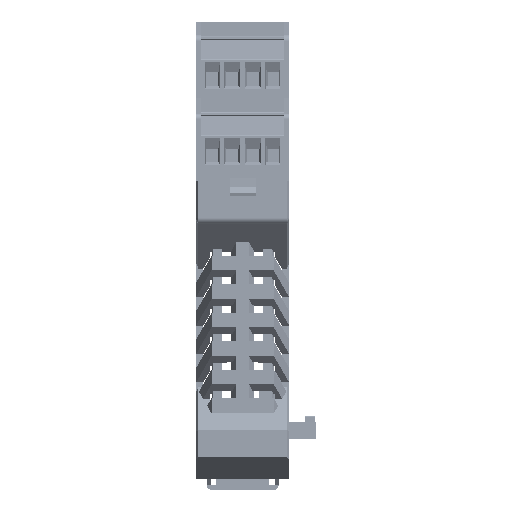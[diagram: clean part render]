
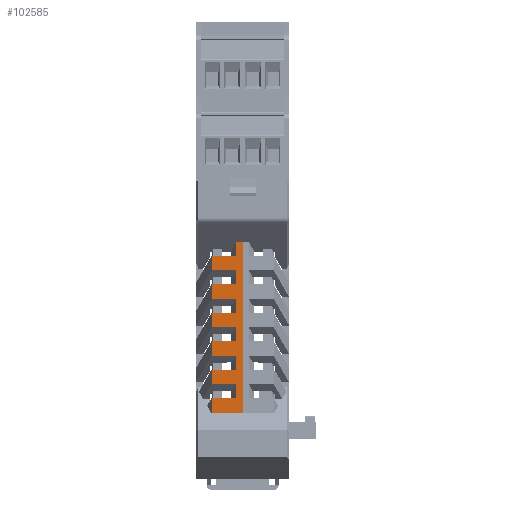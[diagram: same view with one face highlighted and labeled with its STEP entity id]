
A CAD part, front view. The second image highlights one B-rep face of the part: STEP entity #102585.
In plain terms, the highlighted planar face has unit normal (0, -1, 0) as drawn and (1, 0, 0) by its records, which use the part's own axes.
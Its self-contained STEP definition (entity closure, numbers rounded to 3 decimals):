
#102585=ADVANCED_FACE('',(#216925),#216927,.T.);
#216925=FACE_BOUND('',#216926,.T.);
#216926=EDGE_LOOP('',(#309129,#309130,#309131,#309132,#309133,#309134,#309135,#309136,
#309137,#309138,#309139,#309140,#309141,#309142,#309143,#309144,#309145,#309146,
#309147,#309148,#309149,#309150,#309151,#309152,#309153,#309154));
#216927=PLANE('',#216928);
#216928=AXIS2_PLACEMENT_3D('',#216929,#216930,#216931);
#216929=CARTESIAN_POINT('',(42.55,76.5,0.));
#216930=DIRECTION('',(1.,0.,0.));
#216931=DIRECTION('',(0.,0.,-1.));
#309129=ORIENTED_EDGE('',*,*,#363447,.F.);
#309130=ORIENTED_EDGE('',*,*,#363386,.F.);
#309131=ORIENTED_EDGE('',*,*,#363448,.F.);
#309132=ORIENTED_EDGE('',*,*,#363449,.T.);
#309133=ORIENTED_EDGE('',*,*,#362950,.T.);
#309134=ORIENTED_EDGE('',*,*,#363450,.F.);
#309135=ORIENTED_EDGE('',*,*,#363316,.F.);
#309136=ORIENTED_EDGE('',*,*,#363381,.F.);
#309137=ORIENTED_EDGE('',*,*,#363111,.F.);
#309138=ORIENTED_EDGE('',*,*,#363427,.T.);
#309139=ORIENTED_EDGE('',*,*,#363405,.F.);
#309140=ORIENTED_EDGE('',*,*,#363378,.F.);
#309141=ORIENTED_EDGE('',*,*,#363433,.F.);
#309142=ORIENTED_EDGE('',*,*,#363451,.T.);
#309143=ORIENTED_EDGE('',*,*,#363434,.T.);
#309144=ORIENTED_EDGE('',*,*,#363392,.F.);
#309145=ORIENTED_EDGE('',*,*,#363446,.T.);
#309146=ORIENTED_EDGE('',*,*,#363452,.T.);
#309147=ORIENTED_EDGE('',*,*,#363453,.T.);
#309148=ORIENTED_EDGE('',*,*,#363389,.F.);
#309149=ORIENTED_EDGE('',*,*,#363368,.T.);
#309150=ORIENTED_EDGE('',*,*,#363454,.F.);
#309151=ORIENTED_EDGE('',*,*,#363348,.T.);
#309152=ORIENTED_EDGE('',*,*,#363388,.F.);
#309153=ORIENTED_EDGE('',*,*,#363361,.T.);
#309154=ORIENTED_EDGE('',*,*,#363455,.T.);
#362950=EDGE_CURVE('',#427002,#427000,#427003,.T.);
#363111=EDGE_CURVE('',#427276,#427278,#427279,.T.);
#363316=EDGE_CURVE('',#427623,#427625,#427626,.T.);
#363348=EDGE_CURVE('',#427667,#427673,#427675,.T.);
#363361=EDGE_CURVE('',#427695,#427693,#427696,.T.);
#363368=EDGE_CURVE('',#427699,#427703,#427705,.T.);
#363378=EDGE_CURVE('',#427720,#427722,#427723,.T.);
#363381=EDGE_CURVE('',#427278,#427623,#427727,.T.);
#363386=EDGE_CURVE('',#427734,#427736,#427737,.T.);
#363388=EDGE_CURVE('',#427695,#427673,#427739,.T.);
#363389=EDGE_CURVE('',#427699,#427740,#427741,.T.);
#363392=EDGE_CURVE('',#427743,#427745,#427746,.T.);
#363405=EDGE_CURVE('',#427722,#427765,#427766,.T.);
#363427=EDGE_CURVE('',#427276,#427765,#427801,.T.);
#363433=EDGE_CURVE('',#427808,#427720,#427810,.T.);
#363434=EDGE_CURVE('',#427811,#427745,#427812,.T.);
#363446=EDGE_CURVE('',#427743,#427826,#427828,.T.);
#363447=EDGE_CURVE('',#427736,#427829,#427830,.T.);
#363448=EDGE_CURVE('',#427831,#427734,#427832,.T.);
#363449=EDGE_CURVE('',#427831,#427002,#427833,.T.);
#363450=EDGE_CURVE('',#427625,#427000,#427834,.T.);
#363451=EDGE_CURVE('',#427808,#427811,#427835,.T.);
#363452=EDGE_CURVE('',#427826,#427836,#427837,.T.);
#363453=EDGE_CURVE('',#427836,#427740,#427838,.T.);
#363454=EDGE_CURVE('',#427667,#427703,#427839,.T.);
#363455=EDGE_CURVE('',#427693,#427829,#427840,.T.);
#427000=VERTEX_POINT('',#574762);
#427002=VERTEX_POINT('',#574766);
#427003=LINE('',#574767,#574768);
#427276=VERTEX_POINT('',#575369);
#427278=VERTEX_POINT('',#575373);
#427279=LINE('',#575374,#575375);
#427623=VERTEX_POINT('',#576144);
#427625=VERTEX_POINT('',#576148);
#427626=LINE('',#576149,#576150);
#427667=VERTEX_POINT('',#576244);
#427673=VERTEX_POINT('',#576258);
#427675=LINE('',#576262,#576263);
#427693=VERTEX_POINT('',#576304);
#427695=VERTEX_POINT('',#576308);
#427696=LINE('',#576309,#576310);
#427699=VERTEX_POINT('',#576318);
#427703=VERTEX_POINT('',#576328);
#427705=LINE('',#576332,#576333);
#427720=VERTEX_POINT('',#576365);
#427722=VERTEX_POINT('',#576369);
#427723=LINE('',#576370,#576371);
#427727=LINE('',#576380,#576381);
#427734=VERTEX_POINT('',#576395);
#427736=VERTEX_POINT('',#576399);
#427737=LINE('',#576400,#576401);
#427739=LINE('',#576406,#576407);
#427740=VERTEX_POINT('',#576409);
#427741=LINE('',#576410,#576411);
#427743=VERTEX_POINT('',#576416);
#427745=VERTEX_POINT('',#576420);
#427746=LINE('',#576421,#576422);
#427765=VERTEX_POINT('',#576466);
#427766=LINE('',#576467,#576468);
#427801=LINE('',#576546,#576547);
#427808=VERTEX_POINT('',#576563);
#427810=LINE('',#576567,#576568);
#427811=VERTEX_POINT('',#576570);
#427812=LINE('',#576571,#576572);
#427826=VERTEX_POINT('',#576607);
#427828=LINE('',#576611,#576612);
#427829=VERTEX_POINT('',#576614);
#427830=LINE('',#576615,#576616);
#427831=VERTEX_POINT('',#576618);
#427832=LINE('',#576619,#576620);
#427833=LINE('',#576622,#576623);
#427834=LINE('',#576625,#576626);
#427835=LINE('',#576628,#576629);
#427836=VERTEX_POINT('',#576631);
#427837=LINE('',#576632,#576633);
#427838=LINE('',#576635,#576636);
#427839=LINE('',#576638,#576639);
#427840=LINE('',#576641,#576642);
#574762=CARTESIAN_POINT('',(42.55,20.,0.));
#574766=CARTESIAN_POINT('',(42.55,20.,7.547));
#574767=CARTESIAN_POINT('',(42.55,20.,7.547));
#574768=VECTOR('',#574769,1.);
#574769=DIRECTION('',(0.,0.,-1.));
#575369=CARTESIAN_POINT('',(42.55,58.2,7.547));
#575373=CARTESIAN_POINT('',(42.55,58.2,1.5));
#575374=CARTESIAN_POINT('',(42.55,58.2,7.547));
#575375=VECTOR('',#575376,1.);
#575376=DIRECTION('',(0.,0.,-1.));
#576144=CARTESIAN_POINT('',(42.55,61.6,1.5));
#576148=CARTESIAN_POINT('',(42.55,61.6,0.));
#576149=CARTESIAN_POINT('',(42.55,61.6,1.5));
#576150=VECTOR('',#576151,1.);
#576151=DIRECTION('',(0.,0.,-1.));
#576244=CARTESIAN_POINT('',(42.55,34.,7.547));
#576258=CARTESIAN_POINT('',(42.55,34.,1.5));
#576262=CARTESIAN_POINT('',(42.55,34.,7.547));
#576263=VECTOR('',#576264,1.);
#576264=DIRECTION('',(0.,0.,-1.));
#576304=CARTESIAN_POINT('',(42.55,30.6,7.547));
#576308=CARTESIAN_POINT('',(42.55,30.6,1.5));
#576309=CARTESIAN_POINT('',(42.55,30.6,1.5));
#576310=VECTOR('',#576311,1.);
#576311=DIRECTION('',(0.,0.,1.));
#576318=CARTESIAN_POINT('',(42.55,37.5,1.5));
#576328=CARTESIAN_POINT('',(42.55,37.5,7.547));
#576332=CARTESIAN_POINT('',(42.55,37.5,1.5));
#576333=VECTOR('',#576334,1.);
#576334=DIRECTION('',(0.,0.,1.));
#576365=CARTESIAN_POINT('',(42.55,51.3,1.5));
#576369=CARTESIAN_POINT('',(42.55,54.7,1.5));
#576370=CARTESIAN_POINT('',(42.55,51.3,1.5));
#576371=VECTOR('',#576372,1.);
#576372=DIRECTION('',(0.,1.,0.));
#576380=CARTESIAN_POINT('',(42.55,58.2,1.5));
#576381=VECTOR('',#576382,1.);
#576382=DIRECTION('',(0.,1.,0.));
#576395=CARTESIAN_POINT('',(42.55,23.7,1.5));
#576399=CARTESIAN_POINT('',(42.55,27.1,1.5));
#576400=CARTESIAN_POINT('',(42.55,23.7,1.5));
#576401=VECTOR('',#576402,1.);
#576402=DIRECTION('',(0.,1.,0.));
#576406=CARTESIAN_POINT('',(42.55,30.6,1.5));
#576407=VECTOR('',#576408,1.);
#576408=DIRECTION('',(0.,1.,0.));
#576409=CARTESIAN_POINT('',(42.55,40.9,1.5));
#576410=CARTESIAN_POINT('',(42.55,37.5,1.5));
#576411=VECTOR('',#576412,1.);
#576412=DIRECTION('',(0.,1.,0.));
#576416=CARTESIAN_POINT('',(42.55,44.4,1.5));
#576420=CARTESIAN_POINT('',(42.55,47.8,1.5));
#576421=CARTESIAN_POINT('',(42.55,44.4,1.5));
#576422=VECTOR('',#576423,1.);
#576423=DIRECTION('',(0.,1.,0.));
#576466=CARTESIAN_POINT('',(42.55,54.7,7.547));
#576467=CARTESIAN_POINT('',(42.55,54.7,1.5));
#576468=VECTOR('',#576469,1.);
#576469=DIRECTION('',(0.,0.,1.));
#576546=CARTESIAN_POINT('',(42.55,58.2,7.547));
#576547=VECTOR('',#576548,1.);
#576548=DIRECTION('',(0.,-1.,0.));
#576563=CARTESIAN_POINT('',(42.55,51.3,7.547));
#576567=CARTESIAN_POINT('',(42.55,51.3,7.547));
#576568=VECTOR('',#576569,1.);
#576569=DIRECTION('',(0.,0.,-1.));
#576570=CARTESIAN_POINT('',(42.55,47.8,7.547));
#576571=CARTESIAN_POINT('',(42.55,47.8,7.547));
#576572=VECTOR('',#576573,1.);
#576573=DIRECTION('',(0.,0.,-1.));
#576607=CARTESIAN_POINT('',(42.55,44.4,7.547));
#576611=CARTESIAN_POINT('',(42.55,44.4,1.5));
#576612=VECTOR('',#576613,1.);
#576613=DIRECTION('',(0.,0.,1.));
#576614=CARTESIAN_POINT('',(42.55,27.1,7.547));
#576615=CARTESIAN_POINT('',(42.55,27.1,1.5));
#576616=VECTOR('',#576617,1.);
#576617=DIRECTION('',(0.,0.,1.));
#576618=CARTESIAN_POINT('',(42.55,23.7,7.547));
#576619=CARTESIAN_POINT('',(42.55,23.7,7.547));
#576620=VECTOR('',#576621,1.);
#576621=DIRECTION('',(0.,0.,-1.));
#576622=CARTESIAN_POINT('',(42.55,23.7,7.547));
#576623=VECTOR('',#576624,1.);
#576624=DIRECTION('',(0.,-1.,0.));
#576625=CARTESIAN_POINT('',(42.55,61.6,0.));
#576626=VECTOR('',#576627,1.);
#576627=DIRECTION('',(0.,-1.,0.));
#576628=CARTESIAN_POINT('',(42.55,51.3,7.547));
#576629=VECTOR('',#576630,1.);
#576630=DIRECTION('',(0.,-1.,0.));
#576631=CARTESIAN_POINT('',(42.55,40.9,7.547));
#576632=CARTESIAN_POINT('',(42.55,44.4,7.547));
#576633=VECTOR('',#576634,1.);
#576634=DIRECTION('',(0.,-1.,0.));
#576635=CARTESIAN_POINT('',(42.55,40.9,7.547));
#576636=VECTOR('',#576637,1.);
#576637=DIRECTION('',(0.,0.,-1.));
#576638=CARTESIAN_POINT('',(42.55,34.,7.547));
#576639=VECTOR('',#576640,1.);
#576640=DIRECTION('',(0.,1.,0.));
#576641=CARTESIAN_POINT('',(42.55,30.6,7.547));
#576642=VECTOR('',#576643,1.);
#576643=DIRECTION('',(0.,-1.,0.));
